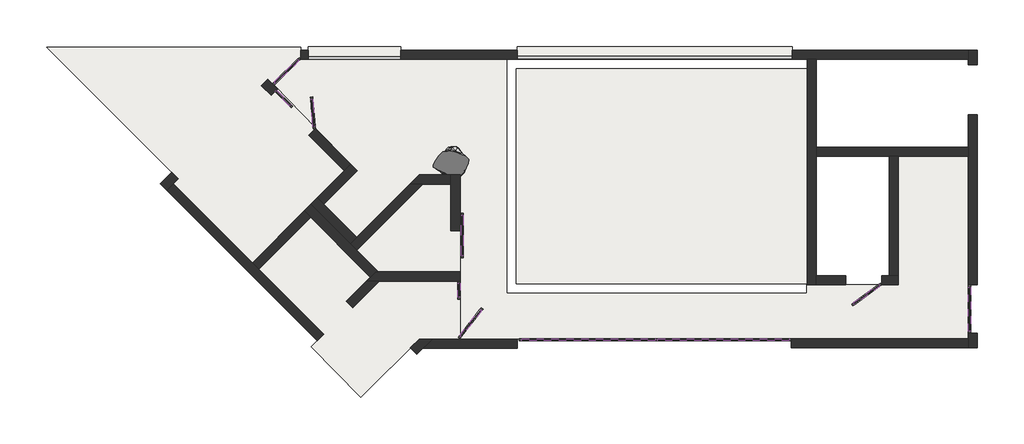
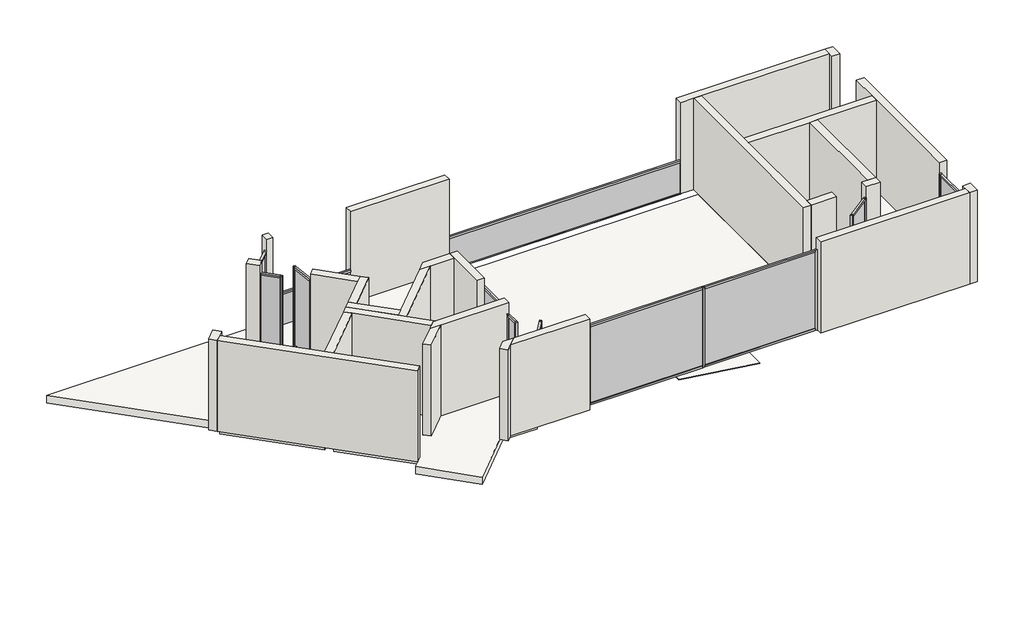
# One storey, incomplete: 40 members, 27 walls, 12 plates, 5 slabs, 1 geographic element, 1 proxy.
"""IFC4 building model written with IfcOpenShell, lengths in millimetres."""

from ifc_helpers import new_model, si_unit, frame, origin, origin_with_axes, place, context, project, spatial, polyline, outline, extrude, faceted_brep, transform, mapped, element, save
from components import generic_models_c9267e70, enscape_assetdefinition_interior_plant_24_enscape_8646f427, montante_rectangular_montante_cuadrado_50x50mm_acero_787adcf8, montante_rectangular_montante_cuadrado_50x50mm_acero_fdfba807, montante_rectangular_montante_cuadrado_50x50mm_acero_ac485ab6, montante_rectangular_montante_cuadrado_50x50mm_acero_1089ad05, montante_rectangular_montante_cuadrado_50x50mm_acero_2ac5a09f, montante_rectangular_montante_cuadrado_50x50mm_acero_28ed77df, montante_rectangular_montante_cuadrado_50x50mm_acero_209acf04, montante_rectangular_montante_cuadrado_50x50mm_acero_e6be7436, montante_rectangular_montante_cuadrado_50x50mm_acero_d908f537, montante_rectangular_montante_cuadrado_50x50mm_acero_891b7284, montante_rectangular_montante_cuadrado_50x50mm_acero_d21a557a, montante_rectangular_montante_cuadrado_50x50mm_acero_1ae98c7d, montante_rectangular_montante_cuadrado_50x50mm_acero_14ec3dc0, montante_rectangular_montante_cuadrado_50x50mm_acero_c8872730, montante_rectangular_montante_cuadrado_50x50mm_acero_1024d89c, montante_rectangular_montante_cuadrado_50x50mm_acero_2f170128, montante_rectangular_montante_cuadrado_50x50mm_acero_3253d648, montante_rectangular_montante_cuadrado_50x50mm_acero_c7423b8e, montante_rectangular_montante_cuadrado_50x50mm_acero_e5dd1eb4, montante_rectangular_montante_cuadrado_50x50mm_acero_47203e4b, montante_rectangular_montante_cuadrado_50x50mm_acero_b2a91dca, montante_rectangular_montante_cuadrado_50x50mm_acero_4420a79e, montante_rectangular_montante_cuadrado_50x50mm_acero_583be070, montante_rectangular_montante_cuadrado_50x50mm_acero_400ae449, montante_rectangular_montante_cuadrado_50x50mm_acero_8aa112a8, montante_rectangular_montante_cuadrado_50x50mm_acero_c0afd770, montante_rectangular_montante_cuadrado_50x50mm_acero_76341540, panel_acristalado_panel_acristalado_1cm_96538285, panel_acristalado_panel_acristalado_1cm_0fc71224, panel_acristalado_panel_acristalado_1cm_f2517264, panel_acristalado_panel_acristalado_1cm_1faddaff, panel_acristalado_panel_acristalado_1cm_bab7a65c, panel_acristalado_panel_acristalado_1cm_362edcc1, panel_acristalado_panel_acristalado_1cm_bec1e09e, panel_acristalado_panel_acristalado_1cm_32b484e9, panel_acristalado_panel_acristalado_1cm_17b08142, panel_acristalado_panel_acristalado_1cm_8d3dcf01, panel_acristalado_panel_acristalado_1cm_ea30b9a0, panel_acristalado_panel_acristalado_1cm_969c867a

model = new_model("IFC4")

# Units and contexts
model_context = context("Model", 3, world=origin())
ifc_project = project(units=[si_unit("LENGTHUNIT", "METRE", prefix="MILLI")], contexts=[model_context])

# Site, building, storey
site = spatial("IfcSite", under=ifc_project)
building = spatial("IfcBuilding", under=site)
storey = spatial("IfcBuildingStorey", under=building, Name="1_NPlaya", Elevation=0.0)

# Proxy
placement = place(None, origin())
generic_models_shape = generic_models_c9267e70(model_context)
element("IfcBuildingElementProxy", 1, Name="PTDX : PTDX4_Escalera Partida 4 Peldaños", ObjectType="PTDX : PTDX4_Escalera Partida 4 Peldaños", at=placement, inside=storey, context=model_context, shape_type="MappedRepresentation", body=[
    mapped(generic_models_shape, transform((4251.69813, 8150.4324974, -10.0), x_axis=(-1.0, 0.0, 0.0), y_axis=(0.0, -1.0, 0.0), z_axis=(0.0, 0.0, 1.0))),
])

# Geographic element
enscape_assetdefinition_interior_plant_24_enscape_shape = enscape_assetdefinition_interior_plant_24_enscape_8646f427(model_context)
element("IfcGeographicElement", 2, ObjectType="Enscape AssetDefinition - Interior Plant 24 : Enscape AssetDefinition - Interior Plant 24", at=placement, inside=storey, context=model_context, shape_type="MappedRepresentation", body=[
    mapped(enscape_assetdefinition_interior_plant_24_enscape_shape, transform((2051.8189647, 10416.4949974, 0.0), x_axis=(1.0, 0.0, 0.0), y_axis=(0.0, 1.0, 0.0), z_axis=(0.0, 0.0, 1.0))),
])

# Members
montante_rectangular_montante_cuadrado_50x50mm_acero_shape = montante_rectangular_montante_cuadrado_50x50mm_acero_787adcf8(model_context)
element("IfcMember", 3, ObjectType="Montante rectangular : Montante cuadrado 50x50mm_Acero", at=placement, inside=storey, context=model_context, shape_type="MappedRepresentation", body=[
    mapped(montante_rectangular_montante_cuadrado_50x50mm_acero_shape, transform((-1234.6573956, 12712.6824974, 900.0), x_axis=(0.0, 0.0, 1.0), y_axis=(0.0, 1.0, 0.0), z_axis=(-1.0, 0.0, 0.0))),
])
montante_rectangular_montante_cuadrado_50x50mm_acero_2_shape = montante_rectangular_montante_cuadrado_50x50mm_acero_fdfba807(model_context)
element("IfcMember", 4, ObjectType="Montante rectangular : Montante cuadrado 50x50mm_Acero", at=placement, inside=storey, context=model_context, shape_type="MappedRepresentation", body=[
    mapped(montante_rectangular_montante_cuadrado_50x50mm_acero_2_shape, transform((3501.8189647, 12723.1324974, 900.0), x_axis=(0.0, 0.0, 1.0), y_axis=(0.0, 1.0, 0.0), z_axis=(-1.0, 0.0, 0.0))),
])
montante_rectangular_montante_cuadrado_50x50mm_acero_3_shape = montante_rectangular_montante_cuadrado_50x50mm_acero_ac485ab6(model_context)
element("IfcMember", 5, ObjectType="Montante rectangular : Montante cuadrado 50x50mm_Acero", at=placement, inside=storey, context=model_context, shape_type="MappedRepresentation", body=[
    mapped(montante_rectangular_montante_cuadrado_50x50mm_acero_3_shape, transform((-1781.2712685, 12179.6692025, 2200.0), x_axis=(0.0, 0.0, 1.0), y_axis=(-0.6981436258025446, 0.7159577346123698, 0.0), z_axis=(-0.7159577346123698, -0.6981436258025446, 0.0))),
])
montante_rectangular_montante_cuadrado_50x50mm_acero_4_shape = montante_rectangular_montante_cuadrado_50x50mm_acero_1089ad05(model_context)
element("IfcMember", 6, ObjectType="Montante rectangular : Montante cuadrado 50x50mm_Acero", at=placement, inside=storey, context=model_context, shape_type="MappedRepresentation", body=[
    mapped(montante_rectangular_montante_cuadrado_50x50mm_acero_4_shape, transform((-1270.4552823, 12677.7753161, 0.0), x_axis=(0.0, 0.0, -1.0), y_axis=(-0.6981436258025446, 0.7159577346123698, 0.0), z_axis=(0.7159577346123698, 0.6981436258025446, 0.0))),
])
montante_rectangular_montante_cuadrado_50x50mm_acero_5_shape = montante_rectangular_montante_cuadrado_50x50mm_acero_2ac5a09f(model_context)
element("IfcMember", 7, ObjectType="Montante rectangular : Montante cuadrado 50x50mm_Acero", at=placement, inside=storey, context=model_context, shape_type="MappedRepresentation", body=[
    mapped(montante_rectangular_montante_cuadrado_50x50mm_acero_5_shape, transform((2282.6020384, 6639.7080351, 0.0), x_axis=(0.0, 0.0, -1.0), y_axis=(0.7880107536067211, -0.6156614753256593, 0.0), z_axis=(-0.6156614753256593, -0.7880107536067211, 0.0))),
])
montante_rectangular_montante_cuadrado_50x50mm_acero_6_shape = montante_rectangular_montante_cuadrado_50x50mm_acero_28ed77df(model_context)
element("IfcMember", 8, ObjectType="Montante rectangular : Montante cuadrado 50x50mm_Acero", at=placement, inside=storey, context=model_context, shape_type="MappedRepresentation", body=[
    mapped(montante_rectangular_montante_cuadrado_50x50mm_acero_6_shape, transform((2725.8783007, 7207.0757777, 2200.0), x_axis=(0.0, 0.0, 1.0), y_axis=(0.7880107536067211, -0.6156614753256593, 0.0), z_axis=(0.6156614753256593, 0.7880107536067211, 0.0))),
])
montante_rectangular_montante_cuadrado_50x50mm_acero_7_shape = montante_rectangular_montante_cuadrado_50x50mm_acero_209acf04(model_context)
element("IfcMember", 9, ObjectType="Montante rectangular : Montante cuadrado 50x50mm_Acero", at=placement, inside=storey, context=model_context, shape_type="MappedRepresentation", body=[
    mapped(montante_rectangular_montante_cuadrado_50x50mm_acero_7_shape, transform((2251.8189647, 7510.3074974, 2200.0), x_axis=(0.0, 0.0, 1.0), y_axis=(-1.0, 0.0, 0.0), z_axis=(0.0, -1.0, 0.0))),
])
montante_rectangular_montante_cuadrado_50x50mm_acero_8_shape = montante_rectangular_montante_cuadrado_50x50mm_acero_e6be7436(model_context)
element("IfcMember", 10, ObjectType="Montante rectangular : Montante cuadrado 50x50mm_Acero", at=placement, inside=storey, context=model_context, shape_type="MappedRepresentation", body=[
    mapped(montante_rectangular_montante_cuadrado_50x50mm_acero_8_shape, transform((2251.8189647, 7810.3074974, 0.0), x_axis=(0.0, 0.0, -1.0), y_axis=(-1.0, 0.0, 0.0), z_axis=(0.0, 1.0, 0.0))),
])
montante_rectangular_montante_cuadrado_50x50mm_acero_9_shape = montante_rectangular_montante_cuadrado_50x50mm_acero_d908f537(model_context)
element("IfcMember", 11, ObjectType="Montante rectangular : Montante cuadrado 50x50mm_Acero", at=placement, inside=storey, context=model_context, shape_type="MappedRepresentation", body=[
    mapped(montante_rectangular_montante_cuadrado_50x50mm_acero_9_shape, transform((3601.8189647, 6600.3074974, 0.0), x_axis=(0.0, 0.0, -1.0), y_axis=(0.0, -1.0, 0.0), z_axis=(-1.0, 0.0, 0.0))),
])
montante_rectangular_montante_cuadrado_50x50mm_acero_10_shape = montante_rectangular_montante_cuadrado_50x50mm_acero_891b7284(model_context)
element("IfcMember", 12, ObjectType="Montante rectangular : Montante cuadrado 50x50mm_Acero", at=placement, inside=storey, context=model_context, shape_type="MappedRepresentation", body=[
    mapped(montante_rectangular_montante_cuadrado_50x50mm_acero_10_shape, transform((9451.8189647, 6600.3074974, 2200.0), x_axis=(0.0, 0.0, 1.0), y_axis=(0.0, -1.0, 0.0), z_axis=(1.0, 0.0, 0.0))),
])
montante_rectangular_montante_cuadrado_50x50mm_acero_11_shape = montante_rectangular_montante_cuadrado_50x50mm_acero_d21a557a(model_context)
element("IfcMember", 13, ObjectType="Montante rectangular : Montante cuadrado 50x50mm_Acero", at=placement, inside=storey, context=model_context, shape_type="MappedRepresentation", body=[
    mapped(montante_rectangular_montante_cuadrado_50x50mm_acero_11_shape, transform((6576.8189647, 6600.3074974, 0.0), x_axis=(0.0, 0.0, -1.0), y_axis=(0.0, -1.0, 0.0), z_axis=(-1.0, 0.0, 0.0))),
])
montante_rectangular_montante_cuadrado_50x50mm_acero_12_shape = montante_rectangular_montante_cuadrado_50x50mm_acero_1ae98c7d(model_context)
element("IfcMember", 14, ObjectType="Montante rectangular : Montante cuadrado 50x50mm_Acero", at=placement, inside=storey, context=model_context, shape_type="MappedRepresentation", body=[
    mapped(montante_rectangular_montante_cuadrado_50x50mm_acero_12_shape, transform((6526.8189647, 6600.3074974, 2200.0), x_axis=(0.0, 0.0, 1.0), y_axis=(0.0, -1.0, 0.0), z_axis=(1.0, 0.0, 0.0))),
])
montante_rectangular_montante_cuadrado_50x50mm_acero_13_shape = montante_rectangular_montante_cuadrado_50x50mm_acero_14ec3dc0(model_context)
element("IfcMember", 15, ObjectType="Montante rectangular : Montante cuadrado 50x50mm_Acero", at=placement, inside=storey, context=model_context, shape_type="MappedRepresentation", body=[
    mapped(montante_rectangular_montante_cuadrado_50x50mm_acero_13_shape, transform((11439.3681149, 7745.9182348, 0.0), x_axis=(0.0, 0.0, -1.0), y_axis=(-0.5877852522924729, 0.8090169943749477, 0.0), z_axis=(0.8090169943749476, 0.5877852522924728, 0.0))),
])
montante_rectangular_montante_cuadrado_50x50mm_acero_14_shape = montante_rectangular_montante_cuadrado_50x50mm_acero_c8872730(model_context)
element("IfcMember", 16, ObjectType="Montante rectangular : Montante cuadrado 50x50mm_Acero", at=placement, inside=storey, context=model_context, shape_type="MappedRepresentation", body=[
    mapped(montante_rectangular_montante_cuadrado_50x50mm_acero_14_shape, transform((10889.2365588, 7346.2242632, 2200.0), x_axis=(0.0, 0.0, 1.0), y_axis=(-0.5877852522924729, 0.8090169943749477, 0.0), z_axis=(-0.8090169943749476, -0.5877852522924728, 0.0))),
])
montante_rectangular_montante_cuadrado_50x50mm_acero_15_shape = montante_rectangular_montante_cuadrado_50x50mm_acero_1024d89c(model_context)
element("IfcMember", 17, ObjectType="Montante rectangular : Montante cuadrado 50x50mm_Acero", at=placement, inside=storey, context=model_context, shape_type="MappedRepresentation", body=[
    mapped(montante_rectangular_montante_cuadrado_50x50mm_acero_15_shape, transform((13371.8189647, 7725.3074974, 2200.0), x_axis=(0.0, 0.0, 1.0), y_axis=(1.0, 0.0, 0.0), z_axis=(0.0, 1.0, 0.0))),
])
montante_rectangular_montante_cuadrado_50x50mm_acero_16_shape = montante_rectangular_montante_cuadrado_50x50mm_acero_2f170128(model_context)
element("IfcMember", 18, ObjectType="Montante rectangular : Montante cuadrado 50x50mm_Acero", at=placement, inside=storey, context=model_context, shape_type="MappedRepresentation", body=[
    mapped(montante_rectangular_montante_cuadrado_50x50mm_acero_16_shape, transform((13371.8189647, 6765.7694548, 0.0), x_axis=(0.0, 0.0, -1.0), y_axis=(1.0, 0.0, 0.0), z_axis=(0.0, -1.0, 0.0))),
])
montante_rectangular_montante_cuadrado_50x50mm_acero_17_shape = montante_rectangular_montante_cuadrado_50x50mm_acero_3253d648(model_context)
element("IfcMember", 19, ObjectType="Montante rectangular : Montante cuadrado 50x50mm_Acero", at=placement, inside=storey, context=model_context, shape_type="MappedRepresentation", body=[
    mapped(montante_rectangular_montante_cuadrado_50x50mm_acero_17_shape, transform((6526.8189647, 6600.3074974, 0.0), x_axis=(1.0, 0.0, 0.0), y_axis=(0.0, -1.0, 0.0), z_axis=(0.0, 0.0, -1.0))),
])
montante_rectangular_montante_cuadrado_50x50mm_acero_18_shape = montante_rectangular_montante_cuadrado_50x50mm_acero_c7423b8e(model_context)
element("IfcMember", 20, ObjectType="Montante rectangular : Montante cuadrado 50x50mm_Acero", at=placement, inside=storey, context=model_context, shape_type="MappedRepresentation", body=[
    mapped(montante_rectangular_montante_cuadrado_50x50mm_acero_18_shape, transform((-1234.6573956, 12712.6824974, 2200.0), x_axis=(0.7159577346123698, 0.6981436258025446, 0.0), y_axis=(-0.6981436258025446, 0.7159577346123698, 0.0), z_axis=(0.0, 0.0, 1.0))),
])
element("IfcMember", 21, ObjectType="Montante rectangular : Montante cuadrado 50x50mm_Acero", at=placement, inside=storey, context=model_context, shape_type="MappedRepresentation", body=[
    mapped(montante_rectangular_montante_cuadrado_50x50mm_acero_18_shape, transform((2276.8189647, 8366.4949974, 2200.0), x_axis=(0.0, -1.0, 0.0), y_axis=(1.0, 0.0, 0.0), z_axis=(0.0, 0.0, 1.0))),
])
element("IfcMember", 22, ObjectType="Montante rectangular : Montante cuadrado 50x50mm_Acero", at=placement, inside=storey, context=model_context, shape_type="MappedRepresentation", body=[
    mapped(montante_rectangular_montante_cuadrado_50x50mm_acero_18_shape, transform((2251.8189647, 7860.3074974, 2200.0), x_axis=(0.0, 1.0, 0.0), y_axis=(-1.0, 0.0, 0.0), z_axis=(0.0, 0.0, 1.0))),
])
element("IfcMember", 23, ObjectType="Montante rectangular : Montante cuadrado 50x50mm_Acero", at=placement, inside=storey, context=model_context, shape_type="MappedRepresentation", body=[
    mapped(montante_rectangular_montante_cuadrado_50x50mm_acero_18_shape, transform((3551.8189647, 6600.3074974, 2200.0), x_axis=(-1.0, 0.0, 0.0), y_axis=(0.0, -1.0, 0.0), z_axis=(0.0, 0.0, 1.0))),
])
element("IfcMember", 24, ObjectType="Montante rectangular : Montante cuadrado 50x50mm_Acero", at=placement, inside=storey, context=model_context, shape_type="MappedRepresentation", body=[
    mapped(montante_rectangular_montante_cuadrado_50x50mm_acero_18_shape, transform((11479.8189647, 7775.3074974, 2200.0), x_axis=(0.8090169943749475, 0.5877852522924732, 0.0), y_axis=(-0.5877852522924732, 0.8090169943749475, 0.0), z_axis=(0.0, 0.0, 1.0))),
])
element("IfcMember", 25, ObjectType="Montante rectangular : Montante cuadrado 50x50mm_Acero", at=placement, inside=storey, context=model_context, shape_type="MappedRepresentation", body=[
    mapped(montante_rectangular_montante_cuadrado_50x50mm_acero_18_shape, transform((13371.8189647, 6715.7694548, 2200.0), x_axis=(0.0, -1.0, 0.0), y_axis=(1.0, 0.0, 0.0), z_axis=(0.0, 0.0, 1.0))),
])
montante_rectangular_montante_cuadrado_50x50mm_acero_19_shape = montante_rectangular_montante_cuadrado_50x50mm_acero_e5dd1eb4(model_context)
element("IfcMember", 26, ObjectType="Montante rectangular : Montante cuadrado 50x50mm_Acero", at=placement, inside=storey, context=model_context, shape_type="MappedRepresentation", body=[
    mapped(montante_rectangular_montante_cuadrado_50x50mm_acero_19_shape, transform((-1817.0691552, 12144.7620212, 0.0), x_axis=(-0.7159577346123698, -0.6981436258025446, 0.0), y_axis=(-0.6981436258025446, 0.7159577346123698, 0.0), z_axis=(0.0, 0.0, -1.0))),
])
element("IfcMember", 27, ObjectType="Montante rectangular : Montante cuadrado 50x50mm_Acero", at=placement, inside=storey, context=model_context, shape_type="MappedRepresentation", body=[
    mapped(montante_rectangular_montante_cuadrado_50x50mm_acero_19_shape, transform((2276.8189647, 9346.4949974, 0.0), x_axis=(0.0, 1.0, 0.0), y_axis=(1.0, 0.0, 0.0), z_axis=(0.0, 0.0, -1.0))),
])
element("IfcMember", 28, ObjectType="Montante rectangular : Montante cuadrado 50x50mm_Acero", at=placement, inside=storey, context=model_context, shape_type="MappedRepresentation", body=[
    mapped(montante_rectangular_montante_cuadrado_50x50mm_acero_19_shape, transform((2251.8189647, 7460.3074974, 0.0), x_axis=(0.0, -1.0, 0.0), y_axis=(-1.0, 0.0, 0.0), z_axis=(0.0, 0.0, -1.0))),
])
element("IfcMember", 29, ObjectType="Montante rectangular : Montante cuadrado 50x50mm_Acero", at=placement, inside=storey, context=model_context, shape_type="MappedRepresentation", body=[
    mapped(montante_rectangular_montante_cuadrado_50x50mm_acero_19_shape, transform((9501.8189647, 6600.3074974, 0.0), x_axis=(1.0, 0.0, 0.0), y_axis=(0.0, -1.0, 0.0), z_axis=(0.0, 0.0, -1.0))),
])
element("IfcMember", 30, ObjectType="Montante rectangular : Montante cuadrado 50x50mm_Acero", at=placement, inside=storey, context=model_context, shape_type="MappedRepresentation", body=[
    mapped(montante_rectangular_montante_cuadrado_50x50mm_acero_19_shape, transform((10848.785709, 7316.8350006, 0.0), x_axis=(-0.8090169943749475, -0.5877852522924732, 0.0), y_axis=(-0.5877852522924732, 0.8090169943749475, 0.0), z_axis=(0.0, 0.0, -1.0))),
])
element("IfcMember", 31, ObjectType="Montante rectangular : Montante cuadrado 50x50mm_Acero", at=placement, inside=storey, context=model_context, shape_type="MappedRepresentation", body=[
    mapped(montante_rectangular_montante_cuadrado_50x50mm_acero_19_shape, transform((13371.8189647, 7775.3074974, 0.0), x_axis=(0.0, 1.0, 0.0), y_axis=(1.0, 0.0, 0.0), z_axis=(0.0, 0.0, -1.0))),
])
element("IfcMember", 32, ObjectType="Montante rectangular : Montante cuadrado 50x50mm_Acero", at=placement, inside=storey, context=model_context, shape_type="MappedRepresentation", body=[
    mapped(montante_rectangular_montante_cuadrado_50x50mm_acero_19_shape, transform((-1404.0736503, 11684.493835, 0.0), x_axis=(0.7071067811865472, -0.7071067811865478, 0.0), y_axis=(-0.7071067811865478, -0.7071067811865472, 0.0), z_axis=(0.0, 0.0, -1.0))),
])
montante_rectangular_montante_cuadrado_50x50mm_acero_20_shape = montante_rectangular_montante_cuadrado_50x50mm_acero_47203e4b(model_context)
element("IfcMember", 33, ObjectType="Montante rectangular : Montante cuadrado 50x50mm_Acero", at=placement, inside=storey, context=model_context, shape_type="MappedRepresentation", body=[
    mapped(montante_rectangular_montante_cuadrado_50x50mm_acero_20_shape, transform((2251.8189647, 6600.3074974, 2200.0), x_axis=(-0.6156614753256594, -0.7880107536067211, 0.0), y_axis=(0.7880107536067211, -0.6156614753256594, 0.0), z_axis=(0.0, 0.0, 1.0))),
])
element("IfcMember", 34, ObjectType="Montante rectangular : Montante cuadrado 50x50mm_Acero", at=placement, inside=storey, context=model_context, shape_type="MappedRepresentation", body=[
    mapped(montante_rectangular_montante_cuadrado_50x50mm_acero_20_shape, transform((-911.8816088, 11192.3017936, 2200.0), x_axis=(0.08715574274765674, -0.9961946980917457, 0.0), y_axis=(0.9961946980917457, 0.08715574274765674, 0.0), z_axis=(0.0, 0.0, 1.0))),
])
montante_rectangular_montante_cuadrado_50x50mm_acero_21_shape = montante_rectangular_montante_cuadrado_50x50mm_acero_b2a91dca(model_context)
element("IfcMember", 35, ObjectType="Montante rectangular : Montante cuadrado 50x50mm_Acero", at=placement, inside=storey, context=model_context, shape_type="MappedRepresentation", body=[
    mapped(montante_rectangular_montante_cuadrado_50x50mm_acero_21_shape, transform((2756.6613744, 7246.4763153, 0.0), x_axis=(0.6156614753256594, 0.7880107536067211, 0.0), y_axis=(0.7880107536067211, -0.6156614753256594, 0.0), z_axis=(0.0, 0.0, -1.0))),
])
element("IfcMember", 36, ObjectType="Montante rectangular : Montante cuadrado 50x50mm_Acero", at=placement, inside=storey, context=model_context, shape_type="MappedRepresentation", body=[
    mapped(montante_rectangular_montante_cuadrado_50x50mm_acero_21_shape, transform((-972.8906288, 11889.6380822, 0.0), x_axis=(-0.08715574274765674, 0.9961946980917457, 0.0), y_axis=(0.9961946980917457, 0.08715574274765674, 0.0), z_axis=(0.0, 0.0, -1.0))),
])
montante_rectangular_montante_cuadrado_50x50mm_acero_22_shape = montante_rectangular_montante_cuadrado_50x50mm_acero_4420a79e(model_context)
element("IfcMember", 37, ObjectType="Montante rectangular : Montante cuadrado 50x50mm_Acero", at=placement, inside=storey, context=model_context, shape_type="MappedRepresentation", body=[
    mapped(montante_rectangular_montante_cuadrado_50x50mm_acero_22_shape, transform((2276.8189647, 9296.4949974, 2200.0), x_axis=(0.0, 0.0, 1.0), y_axis=(1.0, 0.0, 0.0), z_axis=(0.0, 1.0, 0.0))),
])
montante_rectangular_montante_cuadrado_50x50mm_acero_23_shape = montante_rectangular_montante_cuadrado_50x50mm_acero_583be070(model_context)
element("IfcMember", 38, ObjectType="Montante rectangular : Montante cuadrado 50x50mm_Acero", at=placement, inside=storey, context=model_context, shape_type="MappedRepresentation", body=[
    mapped(montante_rectangular_montante_cuadrado_50x50mm_acero_23_shape, transform((2276.8189647, 8416.4949974, 0.0), x_axis=(0.0, 0.0, -1.0), y_axis=(1.0, 0.0, 0.0), z_axis=(0.0, -1.0, 0.0))),
])
montante_rectangular_montante_cuadrado_50x50mm_acero_24_shape = montante_rectangular_montante_cuadrado_50x50mm_acero_400ae449(model_context)
element("IfcMember", 39, ObjectType="Montante rectangular : Montante cuadrado 50x50mm_Acero", at=placement, inside=storey, context=model_context, shape_type="MappedRepresentation", body=[
    mapped(montante_rectangular_montante_cuadrado_50x50mm_acero_24_shape, transform((-968.5328416, 11839.8283473, 2200.0), x_axis=(0.0, 0.0, 1.0), y_axis=(0.9961946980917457, 0.08715574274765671, 0.0), z_axis=(-0.08715574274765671, 0.9961946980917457, 0.0))),
])
montante_rectangular_montante_cuadrado_50x50mm_acero_25_shape = montante_rectangular_montante_cuadrado_50x50mm_acero_8aa112a8(model_context)
element("IfcMember", 40, ObjectType="Montante rectangular : Montante cuadrado 50x50mm_Acero", at=placement, inside=storey, context=model_context, shape_type="MappedRepresentation", body=[
    mapped(montante_rectangular_montante_cuadrado_50x50mm_acero_25_shape, transform((-916.239396, 11242.1115285, 0.0), x_axis=(0.0, 0.0, -1.0), y_axis=(0.9961946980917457, 0.08715574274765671, 0.0), z_axis=(0.08715574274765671, -0.9961946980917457, 0.0))),
])
montante_rectangular_montante_cuadrado_50x50mm_acero_26_shape = montante_rectangular_montante_cuadrado_50x50mm_acero_c0afd770(model_context)
element("IfcMember", 41, ObjectType="Montante rectangular : Montante cuadrado 50x50mm_Acero", at=placement, inside=storey, context=model_context, shape_type="MappedRepresentation", body=[
    mapped(montante_rectangular_montante_cuadrado_50x50mm_acero_26_shape, transform((-1757.6270409, 12038.0472256, 0.0), x_axis=(0.0, 0.0, -1.0), y_axis=(-0.7071067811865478, -0.7071067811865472, 0.0), z_axis=(-0.7071067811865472, 0.7071067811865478, 0.0))),
])
montante_rectangular_montante_cuadrado_50x50mm_acero_27_shape = montante_rectangular_montante_cuadrado_50x50mm_acero_76341540(model_context)
element("IfcMember", 42, ObjectType="Montante rectangular : Montante cuadrado 50x50mm_Acero", at=placement, inside=storey, context=model_context, shape_type="MappedRepresentation", body=[
    mapped(montante_rectangular_montante_cuadrado_50x50mm_acero_27_shape, transform((-1439.4289894, 11719.8491741, 2200.0), x_axis=(0.0, 0.0, 1.0), y_axis=(-0.7071067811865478, -0.7071067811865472, 0.0), z_axis=(0.7071067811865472, -0.7071067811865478, 0.0))),
])

# Plates
panel_acristalado_panel_acristalado_1cm_shape = panel_acristalado_panel_acristalado_1cm_96538285(model_context)
element("IfcPlate", 43, ObjectType="Panel acristalado : Panel acristalado 1cm", at=placement, inside=storey, context=model_context, shape_type="MappedRepresentation", body=[
    mapped(panel_acristalado_panel_acristalado_1cm_shape, transform((-141.0097031, 12712.6824974, 0.0), x_axis=(-1.0, 0.0, 0.0), y_axis=(0.0, -1.0, 0.0), z_axis=(0.0, 0.0, 1.0))),
])
panel_acristalado_panel_acristalado_1cm_2_shape = panel_acristalado_panel_acristalado_1cm_0fc71224(model_context)
element("IfcPlate", 44, ObjectType="Panel acristalado : Panel acristalado 1cm", at=placement, inside=storey, context=model_context, shape_type="MappedRepresentation", body=[
    mapped(panel_acristalado_panel_acristalado_1cm_2_shape, transform((6509.0956802, 12723.1324974, 0.0), x_axis=(-1.0, 0.0, 0.0), y_axis=(0.0, -1.0, 0.0), z_axis=(0.0, 0.0, 1.0))),
])
panel_acristalado_panel_acristalado_1cm_3_shape = panel_acristalado_panel_acristalado_1cm_f2517264(model_context)
element("IfcPlate", 45, ObjectType="Panel acristalado : Panel acristalado 1cm", at=placement, inside=storey, context=model_context, shape_type="MappedRepresentation", body=[
    mapped(panel_acristalado_panel_acristalado_1cm_3_shape, transform((-1525.8632754, 12428.7222593, 50.0), x_axis=(-0.7159577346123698, -0.6981436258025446, 0.0), y_axis=(0.6981436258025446, -0.7159577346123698, 0.0), z_axis=(0.0, 0.0, 1.0))),
])
panel_acristalado_panel_acristalado_1cm_4_shape = panel_acristalado_panel_acristalado_1cm_1faddaff(model_context)
element("IfcPlate", 46, ObjectType="Panel acristalado : Panel acristalado 1cm", at=placement, inside=storey, context=model_context, shape_type="MappedRepresentation", body=[
    mapped(panel_acristalado_panel_acristalado_1cm_4_shape, transform((5064.3189647, 6600.3074974, 50.0), x_axis=(1.0, 0.0, 0.0), y_axis=(0.0, 1.0, 0.0), z_axis=(0.0, 0.0, 1.0))),
])
panel_acristalado_panel_acristalado_1cm_5_shape = panel_acristalado_panel_acristalado_1cm_bab7a65c(model_context)
element("IfcPlate", 47, ObjectType="Panel acristalado : Panel acristalado 1cm", at=placement, inside=storey, context=model_context, shape_type="MappedRepresentation", body=[
    mapped(panel_acristalado_panel_acristalado_1cm_5_shape, transform((2504.2401695, 6923.3919064, 50.0), x_axis=(0.6156614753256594, 0.7880107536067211, 0.0), y_axis=(-0.7880107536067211, 0.6156614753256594, 0.0), z_axis=(0.0, 0.0, 1.0))),
])
panel_acristalado_panel_acristalado_1cm_6_shape = panel_acristalado_panel_acristalado_1cm_362edcc1(model_context)
element("IfcPlate", 48, ObjectType="Panel acristalado : Panel acristalado 1cm", at=placement, inside=storey, context=model_context, shape_type="MappedRepresentation", body=[
    mapped(panel_acristalado_panel_acristalado_1cm_6_shape, transform((2251.8189647, 7660.3074974, 50.0), x_axis=(0.0, -1.0, 0.0), y_axis=(1.0, 0.0, 0.0), z_axis=(0.0, 0.0, 1.0))),
])
panel_acristalado_panel_acristalado_1cm_7_shape = panel_acristalado_panel_acristalado_1cm_bec1e09e(model_context)
element("IfcPlate", 49, ObjectType="Panel acristalado : Panel acristalado 1cm", at=placement, inside=storey, context=model_context, shape_type="MappedRepresentation", body=[
    mapped(panel_acristalado_panel_acristalado_1cm_7_shape, transform((11164.3023368, 7546.071249, 50.0), x_axis=(-0.8090169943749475, -0.5877852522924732, 0.0), y_axis=(0.5877852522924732, -0.8090169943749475, 0.0), z_axis=(0.0, 0.0, 1.0))),
])
panel_acristalado_panel_acristalado_1cm_8_shape = panel_acristalado_panel_acristalado_1cm_32b484e9(model_context)
element("IfcPlate", 50, ObjectType="Panel acristalado : Panel acristalado 1cm", at=placement, inside=storey, context=model_context, shape_type="MappedRepresentation", body=[
    mapped(panel_acristalado_panel_acristalado_1cm_8_shape, transform((13371.8189647, 7245.5384761, 50.0), x_axis=(0.0, 1.0, 0.0), y_axis=(-1.0, 0.0, 0.0), z_axis=(0.0, 0.0, 1.0))),
])
panel_acristalado_panel_acristalado_1cm_9_shape = panel_acristalado_panel_acristalado_1cm_17b08142(model_context)
element("IfcPlate", 51, ObjectType="Panel acristalado : Panel acristalado 1cm", at=placement, inside=storey, context=model_context, shape_type="MappedRepresentation", body=[
    mapped(panel_acristalado_panel_acristalado_1cm_9_shape, transform((8014.3189647, 6600.3074974, 50.0), x_axis=(1.0, 0.0, 0.0), y_axis=(0.0, 1.0, 0.0), z_axis=(0.0, 0.0, 1.0))),
])
panel_acristalado_panel_acristalado_1cm_10_shape = panel_acristalado_panel_acristalado_1cm_8d3dcf01(model_context)
element("IfcPlate", 52, ObjectType="Panel acristalado : Panel acristalado 1cm", at=placement, inside=storey, context=model_context, shape_type="MappedRepresentation", body=[
    mapped(panel_acristalado_panel_acristalado_1cm_10_shape, transform((2276.8189647, 8856.4949974, 50.0), x_axis=(0.0, 1.0, 0.0), y_axis=(-1.0, 0.0, 0.0), z_axis=(0.0, 0.0, 1.0))),
])
panel_acristalado_panel_acristalado_1cm_11_shape = panel_acristalado_panel_acristalado_1cm_ea30b9a0(model_context)
element("IfcPlate", 53, ObjectType="Panel acristalado : Panel acristalado 1cm", at=placement, inside=storey, context=model_context, shape_type="MappedRepresentation", body=[
    mapped(panel_acristalado_panel_acristalado_1cm_11_shape, transform((-942.3861188, 11540.9699379, 50.0), x_axis=(-0.08715574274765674, 0.9961946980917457, 0.0), y_axis=(-0.9961946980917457, -0.08715574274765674, 0.0), z_axis=(0.0, 0.0, 1.0))),
])
panel_acristalado_panel_acristalado_1cm_12_shape = panel_acristalado_panel_acristalado_1cm_969c867a(model_context)
element("IfcPlate", 54, ObjectType="Panel acristalado : Panel acristalado 1cm", at=placement, inside=storey, context=model_context, shape_type="MappedRepresentation", body=[
    mapped(panel_acristalado_panel_acristalado_1cm_12_shape, transform((-1598.5280151, 11878.9481999, 50.0), x_axis=(0.7071067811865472, -0.7071067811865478, 0.0), y_axis=(0.7071067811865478, 0.7071067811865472, 0.0), z_axis=(0.0, 0.0, 1.0))),
])

# Slabs
element("IfcSlab", 55, ObjectType="Pieza 316_Patrón 1/3_Tresor_Bali_Anti-Slip", at=placement, inside=storey, context=model_context, shape_type="SweptSolid", body=[
    extrude(outline(polyline([(-1409.0796476, 6831.57313), (-1689.0796476, 8931.57313), (-1680.0, 8931.57313), (-1400.0, 6831.57313), (-1409.0796476, 6831.57313)])), frame((0.0, 8150.4324974, 0.0), z_axis=(0.0, 1.0, 0.0), x_axis=(0.0, 0.0, 1.0)), (0.0, 0.0, 1.0), 3999.75),
])
element("IfcSlab", 56, ObjectType="Pieza 199_Patrón 1/3_Alma_Forest_Anti-Slip", at=placement, inside=storey, context=model_context, shape_type="SweptSolid", body=[
    extrude(outline(polyline([(3273.69813, 7592.4324974), (9840.44813, 7592.4324974), (9840.44813, 7775.3074974), (11836.8189647, 7775.3074974), (11836.8189647, 10590.3074974), (13371.8189647, 10590.3074974), (13371.8189647, 6600.3074974), (2251.8189647, 6600.3074974), (2251.8189647, 10180.3074974), (1357.0995597, 10180.3074974), (-8.9033246, 8814.3046131), (-730.1522414, 9535.5535299), (7.7126207, 10273.418392), (-1817.0691552, 12144.7620212), (-1234.6573956, 12712.6824974), (-1072.8540914, 12712.6824974), (-1072.8540914, 12990.3074974), (952.6379894, 12990.3074974), (952.6379894, 12712.6824974), (3273.69813, 12712.6824974), (3273.69813, 7592.4324974)])), frame((0.0, 0.0, -9.0), z_axis=(0.0, 0.0, 1.0), x_axis=(1.0, 0.0, 0.0)), (0.0, 0.0, 1.0), 9.0),
])
element("IfcSlab", 57, ObjectType="Pieza 199_Patrón 1/3_Alma_Forest_Anti-Slip", at=placement, inside=storey, context=model_context, shape_type="SweptSolid", body=[
    extrude(outline(polyline([(3501.8189647, 12712.1824974), (3501.8189647, 12990.3080413), (9516.3723957, 12990.3080413), (9516.3723957, 12712.1824974), (3501.8189647, 12712.1824974)])), frame((0.0, 0.0, -9.0), z_axis=(0.0, 0.0, 1.0), x_axis=(1.0, 0.0, 0.0)), (0.0, 0.0, 1.0), 9.0),
])
element("IfcSlab", 58, ObjectType="GENÉRICO_LOSA 20 cm", at=placement, inside=storey, context=model_context, shape_type="SweptSolid", body=[
    extrude(outline(polyline([(2051.8189647, 9980.3074974), (2051.8189647, 8960.3074974), (2251.8189647, 8960.3074974), (2251.8189647, 8060.3074974), (461.7292001, 8060.3074974), (-9.1642639, 8531.2009613), (1439.9422721, 9980.3074974), (2051.8189647, 9980.3074974)])), frame((0.0, 0.0, -200.0), z_axis=(0.0, 0.0, 1.0), x_axis=(1.0, 0.0, 0.0)), (0.0, 0.0, 1.0), 200.0),
    extrude(outline(polyline([(2251.8189647, 6591.6962622), (1361.8189647, 6591.6962622), (85.6624489, 5315.5397465), (-997.4719186, 6426.3117989), (-731.4149133, 6692.3688042), (-2152.3759403, 8113.3298311), (-1013.2558932, 9252.4498781), (291.9103235, 7947.2836614), (-234.8514141, 7420.5219238), (-93.4300578, 7279.1005676), (487.7768719, 7860.3074974), (2251.8189647, 7860.3074974), (2251.8189647, 6591.6962622)])), frame((0.0, 0.0, -200.0), z_axis=(0.0, 0.0, 1.0), x_axis=(1.0, 0.0, 0.0)), (0.0, 0.0, 1.0), 200.0),
    extrude(outline(polyline([(-899.9461054, 11204.237297), (-1053.3029651, 11050.8804373), (-275.4855058, 10273.062978), (-2293.7972965, 8254.7511873), (-4026.5325137, 9987.4864045), (-3913.3954287, 10100.6234895), (-6793.0794366, 12980.3074974), (-1229.2120376, 12980.3074974), (-1229.2120376, 12717.9923667), (-1817.0691552, 12144.7620212), (-899.9461054, 11204.237297)])), frame((0.0, 0.0, -200.0), z_axis=(0.0, 0.0, 1.0), x_axis=(1.0, 0.0, 0.0)), (0.0, 0.0, 1.0), 200.0),
])
element("IfcSlab", 59, ObjectType="GENÉRICO_AGUA", at=placement, inside=storey, context=model_context, shape_type="SweptSolid", body=[
    extrude(outline(polyline([(9840.44813, 12505.1072376), (9840.44813, 7799.8668296), (3480.5073062, 7799.8668296), (3480.5073062, 12505.1072376), (9840.44813, 12505.1072376)])), frame((0.0, 0.0, -11.0), z_axis=(0.0, 0.0, 1.0), x_axis=(1.0, 0.0, 0.0)), (0.0, 0.0, 1.0), 1.0),
])

# Walls
element("IfcWall", 60, ObjectType="GENÉRICO_MURO BASE 20 cm", at=placement, inside=storey, context=model_context, shape_type="Brep", body=[
    faceted_brep([(9845.44813, 12712.3234249, 0.0), (9845.44813, 7775.3074974, 0.0), (9845.44813, 7775.3074974, 2500.0), (9845.44813, 12712.3234249, 2500.0), (10045.44813, 12712.3234249, 0.0), (10045.44813, 12712.3234249, 2500.0), (10045.44813, 10790.3074974, 2500.0), (10045.44813, 10590.3074974, 2500.0), (10045.44813, 7975.3074974, 2500.0), (10045.44813, 7775.3074974, 2500.0), (10045.44813, 7775.3074974, 0.0), (10045.44813, 7975.3074974, 0.0), (10045.44813, 10590.3074974, 0.0), (10045.44813, 10790.3074974, 0.0)], [[[0, 1, 2, 3]], [[4, 5, 6, 7, 8, 9, 10, 11, 12, 13]], [[1, 0, 4, 13, 12, 11, 10]], [[3, 2, 9, 8, 7, 6, 5]], [[2, 1, 10, 9]], [[0, 3, 5, 4]]]),
])
element("IfcWall", 61, ObjectType="GENÉRICO_MURO BASE 20 cm", at=placement, inside=storey, context=model_context, shape_type="SweptSolid", body=[
    extrude(outline(polyline([(10695.44813, 7775.3074974), (10045.44813, 7775.3074974), (10045.44813, 7975.3074974), (10695.44813, 7975.3074974), (10695.44813, 7775.3074974)])), origin_with_axes(), (0.0, 0.0, 1.0), 2500.0),
])
element("IfcWall", 62, ObjectType="GENÉRICO_MURO BASE 20 cm", at=placement, inside=storey, context=model_context, shape_type="Brep", body=[
    faceted_brep([(11479.8189647, 7775.3074974, 0.0), (11836.8189647, 7775.3074974, 0.0), (11836.8189647, 7775.3074974, 2500.0), (11479.8189647, 7775.3074974, 2500.0), (11479.8189647, 7975.3074974, 0.0), (11479.8189647, 7975.3074974, 2500.0), (11636.8189647, 7975.3074974, 2500.0), (11836.8189647, 7975.3074974, 2500.0), (11836.8189647, 7975.3074974, 0.0), (11636.8189647, 7975.3074974, 0.0)], [[[0, 1, 2, 3]], [[4, 5, 6, 7, 8, 9]], [[1, 0, 4, 9, 8]], [[3, 2, 7, 6, 5]], [[0, 3, 5, 4]], [[2, 1, 8, 7]]]),
])
element("IfcWall", 63, ObjectType="GENÉRICO_MURO BASE 20 cm", at=placement, inside=storey, context=model_context, shape_type="SweptSolid", body=[
    extrude(outline(polyline([(11836.8189647, 10590.3074974), (11836.8189647, 7975.3074974), (11636.8189647, 7975.3074974), (11636.8189647, 10590.3074974), (11836.8189647, 10590.3074974)])), origin_with_axes(), (0.0, 0.0, 1.0), 2500.0),
])
element("IfcWall", 64, ObjectType="GENÉRICO_MURO BASE 20 cm", at=placement, inside=storey, context=model_context, shape_type="Brep", body=[
    faceted_brep([(10045.44813, 10590.3074974, 0.0), (11636.8189647, 10590.3074974, 0.0), (11836.8189647, 10590.3074974, 0.0), (13371.8189647, 10590.3074974, 0.0), (13371.8189647, 10590.3074974, 2500.0), (11836.8189647, 10590.3074974, 2500.0), (11636.8189647, 10590.3074974, 2500.0), (10045.44813, 10590.3074974, 2500.0), (10045.44813, 10790.3074974, 0.0), (10045.44813, 10790.3074974, 2500.0), (13371.8189647, 10790.3074974, 2500.0), (13371.8189647, 10790.3074974, 0.0)], [[[0, 1, 2, 3, 4, 5, 6, 7]], [[8, 9, 10, 11]], [[3, 2, 1, 0, 8, 11]], [[7, 6, 5, 4, 10, 9]], [[0, 7, 9, 8]], [[4, 3, 11, 10]]]),
])
element("IfcWall", 65, ObjectType="GENÉRICO_MURO BASE 20 cm", at=placement, inside=storey, context=model_context, shape_type="Brep", body=[
    faceted_brep([(9516.3723957, 12712.3234249, 0.0), (9845.44813, 12712.3234249, 0.0), (10045.44813, 12712.3234249, 0.0), (13371.4446819, 12712.3234249, 0.0), (13371.4446819, 12712.3234249, 2500.0), (10045.44813, 12712.3234249, 2500.0), (9845.44813, 12712.3234249, 2500.0), (9516.3723957, 12712.3234249, 2500.0), (9516.3723957, 12912.3234249, 0.0), (9516.3723957, 12912.3234249, 2500.0), (13371.4446819, 12912.3234249, 2500.0), (13371.4446819, 12912.3234249, 0.0)], [[[0, 1, 2, 3, 4, 5, 6, 7]], [[8, 9, 10, 11]], [[3, 2, 1, 0, 8, 11]], [[7, 6, 5, 4, 10, 9]], [[0, 7, 9, 8]], [[4, 3, 11, 10]]]),
])
element("IfcWall", 66, ObjectType="GENÉRICO_MURO BASE 20 cm", at=placement, inside=storey, context=model_context, shape_type="Brep", body=[
    faceted_brep([(13371.4446819, 12912.3234249, 0.0), (13371.4446819, 12712.3234249, 0.0), (13371.4446819, 12595.3074974, 0.0), (13371.4446819, 12595.3074974, 2500.0), (13371.4446819, 12712.3234249, 2500.0), (13371.4446819, 12912.3234249, 2500.0), (13571.4446819, 12912.3234249, 0.0), (13571.4446819, 12912.3234249, 2500.0), (13571.4446819, 12595.3074974, 2500.0), (13571.4446819, 12595.3074974, 0.0)], [[[0, 1, 2, 3, 4, 5]], [[6, 7, 8, 9]], [[2, 1, 0, 6, 9]], [[3, 2, 9, 8]], [[5, 4, 3, 8, 7]], [[0, 5, 7, 6]]]),
])
element("IfcWall", 67, ObjectType="GENÉRICO_MURO BASE 20 cm", at=placement, inside=storey, context=model_context, shape_type="Brep", body=[
    faceted_brep([(13371.8189647, 11495.3074974, 0.0), (13371.8189647, 10790.3074974, 0.0), (13371.8189647, 10590.3074974, 0.0), (13371.8189647, 7775.3074974, 0.0), (13371.8189647, 7775.3074974, 2500.0), (13371.8189647, 10590.3074974, 2500.0), (13371.8189647, 10790.3074974, 2500.0), (13371.8189647, 11495.3074974, 2500.0), (13571.8189647, 11495.3074974, 0.0), (13571.8189647, 11495.3074974, 2500.0), (13571.8189647, 7775.3074974, 2500.0), (13571.8189647, 7775.3074974, 0.0)], [[[0, 1, 2, 3, 4, 5, 6, 7]], [[8, 9, 10, 11]], [[3, 2, 1, 0, 8, 11]], [[4, 3, 11, 10]], [[7, 6, 5, 4, 10, 9]], [[0, 7, 9, 8]]]),
])
element("IfcWall", 68, ObjectType="GENÉRICO_MURO BASE 20 cm", at=placement, inside=storey, context=model_context, shape_type="Brep", body=[
    faceted_brep([(13371.8189647, 6715.7694548, 0.0), (13371.8189647, 6600.3074974, 0.0), (13371.8189647, 6400.3074974, 0.0), (13371.8189647, 6400.3074974, 2500.0), (13371.8189647, 6600.3074974, 2500.0), (13371.8189647, 6715.7694548, 2500.0), (13571.8189647, 6715.7694548, 0.0), (13571.8189647, 6715.7694548, 2500.0), (13571.8189647, 6400.3074974, 2500.0), (13571.8189647, 6400.3074974, 0.0)], [[[0, 1, 2, 3, 4, 5]], [[6, 7, 8, 9]], [[2, 1, 0, 6, 9]], [[5, 4, 3, 8, 7]], [[0, 5, 7, 6]], [[3, 2, 9, 8]]]),
])
element("IfcWall", 69, ObjectType="GENÉRICO_MURO BASE 20 cm", at=placement, inside=storey, context=model_context, shape_type="SweptSolid", body=[
    extrude(outline(polyline([(9501.8189647, 6600.3074974), (13371.8189647, 6600.3074974), (13371.8189647, 6400.3074974), (9501.8189647, 6400.3074974), (9501.8189647, 6600.3074974)])), origin_with_axes(), (0.0, 0.0, 1.0), 2500.0),
])
element("IfcWall", 70, ObjectType="GENÉRICO_MURO BASE 20 cm", at=placement, inside=storey, context=model_context, shape_type="SweptSolid", body=[
    extrude(outline(polyline([(1644.6616771, 6591.6962622), (3501.8189647, 6591.6962622), (3501.8189647, 6391.6962622), (1444.6616771, 6391.6962622), (1644.6616771, 6591.6962622)])), origin_with_axes(), (0.0, 0.0, 1.0), 2500.0),
])
element("IfcWall", 71, ObjectType="GENÉRICO_MURO BASE 20 cm", at=placement, inside=storey, context=model_context, shape_type="Brep", body=[
    faceted_brep([(1361.8189647, 6591.6962622, 0.0), (1168.3288284, 6398.2061259, 0.0), (1168.3288284, 6398.2061259, 2500.0), (1361.8189647, 6591.6962622, 2500.0), (1644.6616771, 6591.6962622, 0.0), (1644.6616771, 6591.6962622, 2500.0), (1444.6616771, 6391.6962622, 2500.0), (1309.7501846, 6256.7847697, 2500.0), (1309.7501846, 6256.7847697, 0.0), (1444.6616771, 6391.6962622, 0.0)], [[[0, 1, 2, 3]], [[4, 5, 6, 7, 8, 9]], [[1, 0, 4, 9, 8]], [[2, 1, 8, 7]], [[3, 2, 7, 6, 5]], [[0, 3, 5, 4]]]),
])
element("IfcWall", 72, ObjectType="GENÉRICO_MURO BASE 20 cm", at=placement, inside=storey, context=model_context, shape_type="Brep", body=[
    faceted_brep([(2251.8189647, 8060.3074974, 0.0), (461.7292001, 8060.3074974, 0.0), (404.9341595, 8060.3074974, 0.0), (404.9341595, 8060.3074974, 2500.0), (461.7292001, 8060.3074974, 2500.0), (2251.8189647, 8060.3074974, 2500.0), (2251.8189647, 7860.3074974, 0.0), (2251.8189647, 7860.3074974, 2500.0), (487.7768719, 7860.3074974, 2500.0), (204.9341595, 7860.3074974, 2500.0), (204.9341595, 7860.3074974, 0.0), (487.7768719, 7860.3074974, 0.0), (291.9103235, 7947.2836614, 0.0), (291.9103235, 7947.2836614, 2500.0)], [[[0, 1, 2, 3, 4, 5]], [[6, 7, 8, 9, 10, 11]], [[2, 1, 0, 6, 11, 10, 12]], [[5, 4, 3, 13, 9, 8, 7]], [[0, 5, 7, 6]], [[3, 2, 12, 10, 9, 13]]]),
])
element("IfcWall", 73, ObjectType="GENÉRICO_MURO BASE 20 cm", at=placement, inside=storey, context=model_context, shape_type="SweptSolid", body=[
    extrude(outline(polyline([(-234.8514141, 7420.5219238), (204.9341595, 7860.3074974), (487.7768719, 7860.3074974), (-93.4300578, 7279.1005676), (-234.8514141, 7420.5219238)])), origin_with_axes(), (0.0, 0.0, 1.0), 2500.0),
])
element("IfcWall", 74, ObjectType="GENÉRICO_MURO BASE 20 cm", at=placement, inside=storey, context=model_context, shape_type="Brep", body=[
    faceted_brep([(2251.8189647, 8960.3074974, 0.0), (2251.8189647, 10180.3074974, 0.0), (2251.8189647, 10180.3074974, 2500.0), (2251.8189647, 8960.3074974, 2500.0), (2051.8189647, 8960.3074974, 0.0), (2051.8189647, 8960.3074974, 2500.0), (2051.8189647, 9980.3074974, 2500.0), (2051.8189647, 10180.3074974, 2500.0), (2051.8189647, 10180.3074974, 0.0), (2051.8189647, 9980.3074974, 0.0)], [[[0, 1, 2, 3]], [[4, 5, 6, 7, 8, 9]], [[1, 0, 4, 9, 8]], [[3, 2, 7, 6, 5]], [[0, 3, 5, 4]], [[2, 1, 8, 7]]]),
])
element("IfcWall", 75, ObjectType="GENÉRICO_MURO BASE 20 cm", at=placement, inside=storey, context=model_context, shape_type="Brep", body=[
    faceted_brep([(2051.8189647, 10180.3074974, 0.0), (1357.0995597, 10180.3074974, 0.0), (1357.0995597, 10180.3074974, 2500.0), (2051.8189647, 10180.3074974, 2500.0), (2051.8189647, 9980.3074974, 0.0), (2051.8189647, 9980.3074974, 2500.0), (1439.9422721, 9980.3074974, 2500.0), (1157.0995597, 9980.3074974, 2500.0), (1157.0995597, 9980.3074974, 0.0), (1439.9422721, 9980.3074974, 0.0)], [[[0, 1, 2, 3]], [[4, 5, 6, 7, 8, 9]], [[1, 0, 4, 9, 8]], [[3, 2, 7, 6, 5]], [[0, 3, 5, 4]], [[2, 1, 8, 7]]]),
])
element("IfcWall", 76, ObjectType="GENÉRICO_MURO BASE 20 cm", at=placement, inside=storey, context=model_context, shape_type="Brep", body=[
    faceted_brep([(1157.0995597, 9980.3074974, 0.0), (-8.9033246, 8814.3046131, 0.0), (-150.3246808, 8672.8832569, 0.0), (-150.3246808, 8672.8832569, 2500.0), (-8.9033246, 8814.3046131, 2500.0), (1157.0995597, 9980.3074974, 2500.0), (1439.9422721, 9980.3074974, 0.0), (1439.9422721, 9980.3074974, 2500.0), (-8.9033246, 8531.4619006, 2500.0), (-8.9033246, 8531.4619006, 0.0)], [[[0, 1, 2, 3, 4, 5]], [[6, 7, 8, 9]], [[2, 1, 0, 6, 9]], [[5, 4, 3, 8, 7]], [[0, 5, 7, 6]], [[3, 2, 9, 8]]]),
])
element("IfcWall", 77, ObjectType="GENÉRICO_MURO BASE 20 cm", at=placement, inside=storey, context=model_context, shape_type="Brep", body=[
    faceted_brep([(-8.9033246, 8814.3046131, 0.0), (-730.1522414, 9535.5535299, 0.0), (-871.5735976, 9676.9748862, 0.0), (-871.5735976, 9676.9748862, 2500.0), (-730.1522414, 9535.5535299, 2500.0), (-8.9033246, 8814.3046131, 2500.0), (-150.3246808, 8672.8832569, 0.0), (-150.3246808, 8672.8832569, 2500.0), (-1012.9949539, 9535.5535299, 2500.0), (-1012.9949539, 9535.5535299, 0.0)], [[[0, 1, 2, 3, 4, 5]], [[6, 7, 8, 9]], [[2, 1, 0, 6, 9]], [[5, 4, 3, 8, 7]], [[0, 5, 7, 6]], [[3, 2, 9, 8]]]),
])
element("IfcWall", 78, ObjectType="GENÉRICO_MURO BASE 20 cm", at=placement, inside=storey, context=model_context, shape_type="Brep", body=[
    faceted_brep([(-730.1522414, 9535.5535299, 0.0), (7.3572067, 10273.062978, 0.0), (7.3572067, 10273.062978, 2500.0), (-730.1522414, 9535.5535299, 2500.0), (-871.5735976, 9676.9748862, 0.0), (-871.5735976, 9676.9748862, 2500.0), (-275.4855058, 10273.062978, 2500.0), (-134.0641495, 10414.4843343, 2500.0), (-134.0641495, 10414.4843343, 0.0), (-275.4855058, 10273.062978, 0.0)], [[[0, 1, 2, 3]], [[4, 5, 6, 7, 8, 9]], [[1, 0, 4, 9, 8]], [[3, 2, 7, 6, 5]], [[0, 3, 5, 4]], [[2, 1, 8, 7]]]),
])
element("IfcWall", 79, ObjectType="GENÉRICO_MURO BASE 20 cm", at=placement, inside=storey, context=model_context, shape_type="SweptSolid", body=[
    extrude(outline(polyline([(-911.8816088, 11192.3017936), (-134.0641495, 10414.4843343), (-275.4855058, 10273.062978), (-1053.3029651, 11050.8804373), (-911.8816088, 11192.3017936)])), origin_with_axes(), (0.0, 0.0, 1.0), 2500.0),
])
element("IfcWall", 80, ObjectType="GENÉRICO_MURO BASE 20 cm", at=placement, inside=storey, context=model_context, shape_type="SweptSolid", body=[
    extrude(outline(polyline([(-1952.4898668, 12278.089575), (-1735.0372792, 12060.6369874), (-1876.4586354, 11919.2156311), (-2093.9112231, 12136.6682188), (-1952.4898668, 12278.089575)])), origin_with_axes(), (0.0, 0.0, 1.0), 2500.0),
])
element("IfcWall", 81, ObjectType="GENÉRICO_MURO BASE 20 cm", at=placement, inside=storey, context=model_context, shape_type="Brep", body=[
    faceted_brep([(461.7292001, 8060.3074974, 0.0), (-1013.2558932, 9535.2925906, 0.0), (-1013.2558932, 9535.2925906, 2500.0), (461.7292001, 8060.3074974, 2500.0), (291.9103235, 7947.2836614, 0.0), (291.9103235, 7947.2836614, 2500.0), (-1013.2558932, 9252.4498781, 2500.0), (-1154.6772494, 9393.8712344, 2500.0), (-1154.6772494, 9393.8712344, 0.0), (-1013.2558932, 9252.4498781, 0.0), (404.9341595, 8060.3074974, 0.0), (404.9341595, 8060.3074974, 2500.0)], [[[0, 1, 2, 3]], [[4, 5, 6, 7, 8, 9]], [[1, 0, 10, 4, 9, 8]], [[3, 2, 7, 6, 5, 11]], [[0, 3, 11, 10]], [[11, 5, 4, 10]], [[2, 1, 8, 7]]]),
])
element("IfcWall", 82, ObjectType="GENÉRICO_MURO BASE 20 cm", at=placement, inside=storey, context=model_context, shape_type="SweptSolid", body=[
    extrude(outline(polyline([(-2293.7972965, 8254.7511873), (-1154.6772494, 9393.8712344), (-1013.2558932, 9252.4498781), (-2152.3759403, 8113.3298311), (-2293.7972965, 8254.7511873)])), origin_with_axes(), (0.0, 0.0, 1.0), 2500.0),
])
element("IfcWall", 83, ObjectType="GENÉRICO_MURO BASE 20 cm", at=placement, inside=storey, context=model_context, shape_type="Brep", body=[
    faceted_brep([(-4054.8167849, 10242.0448457, 0.0), (-4309.3752261, 9987.4864045, 0.0), (-4309.3752261, 9987.4864045, 2500.0), (-4054.8167849, 10242.0448457, 2500.0), (-3913.3954287, 10100.6234895, 0.0), (-3913.3954287, 10100.6234895, 2500.0), (-4026.5325137, 9987.4864045, 2500.0), (-4167.9538699, 9846.0650483, 2500.0), (-4167.9538699, 9846.0650483, 0.0), (-4026.5325137, 9987.4864045, 0.0)], [[[0, 1, 2, 3]], [[4, 5, 6, 7, 8, 9]], [[1, 0, 4, 9, 8]], [[3, 2, 7, 6, 5]], [[0, 3, 5, 4]], [[2, 1, 8, 7]]]),
])
element("IfcWall", 84, ObjectType="GENÉRICO_MURO BASE 20 cm", at=placement, inside=storey, context=model_context, shape_type="Brep", body=[
    faceted_brep([(-4167.9538699, 9846.0650483, 0.0), (-872.8362696, 6550.9474479, 0.0), (-872.8362696, 6550.9474479, 2500.0), (-4167.9538699, 9846.0650483, 2500.0), (-4026.5325137, 9987.4864045, 0.0), (-4026.5325137, 9987.4864045, 2500.0), (-2293.7972965, 8254.7511873, 2500.0), (-2152.3759403, 8113.3298311, 2500.0), (-731.4149133, 6692.3688042, 2500.0), (-731.4149133, 6692.3688042, 0.0), (-2152.3759403, 8113.3298311, 0.0), (-2293.7972965, 8254.7511873, 0.0)], [[[0, 1, 2, 3]], [[4, 5, 6, 7, 8, 9, 10, 11]], [[1, 0, 4, 11, 10, 9]], [[2, 1, 9, 8]], [[3, 2, 8, 7, 6, 5]], [[0, 3, 5, 4]]]),
])
element("IfcWall", 85, ObjectType="GENÉRICO_MURO BASE 20 cm", at=placement, inside=storey, context=model_context, shape_type="SweptSolid", body=[
    extrude(outline(polyline([(952.6379894, 12912.6824974), (3501.8189647, 12912.6824974), (3501.8189647, 12712.6824974), (952.6379894, 12712.6824974), (952.6379894, 12912.6824974)])), origin_with_axes(), (0.0, 0.0, 1.0), 2500.0),
])
element("IfcWall", 86, ObjectType="GENÉRICO_MURO BASE 20 cm", at=placement, inside=storey, context=model_context, shape_type="SweptSolid", body=[
    extrude(outline(polyline([(-1229.2120376, 12912.6824974), (-1072.8540914, 12912.6824974), (-1072.8540914, 12712.6824974), (-1229.2120376, 12712.6824974), (-1229.2120376, 12912.6824974)])), origin_with_axes(), (0.0, 0.0, 1.0), 2500.0),
])

save(model, "model.ifc")
